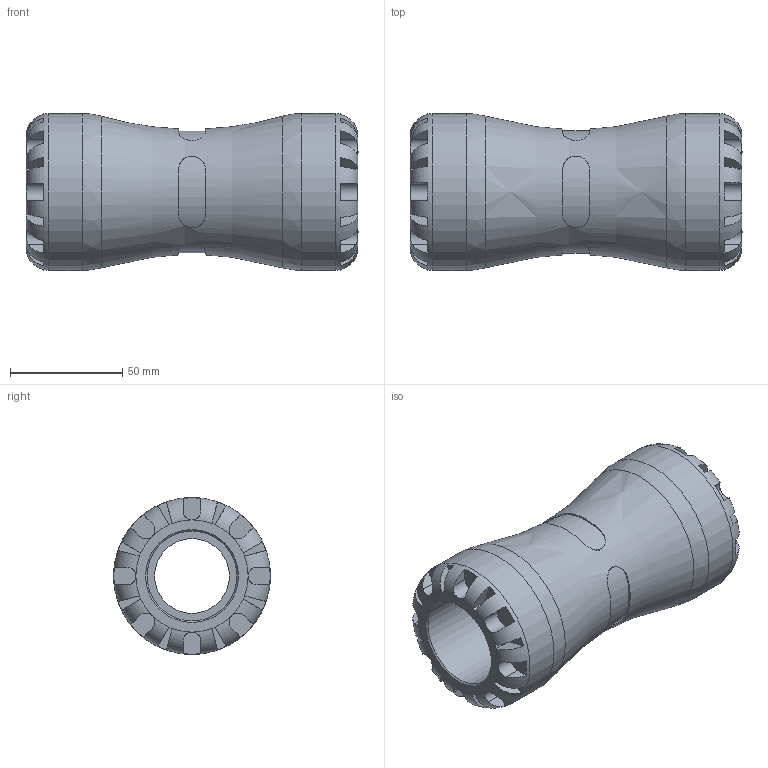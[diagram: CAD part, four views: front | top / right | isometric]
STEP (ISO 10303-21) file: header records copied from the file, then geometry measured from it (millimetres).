
FILE_DESCRIPTION(/* description */ ('PLASSON G-PLASS COUPLING 40X40'),/* implementation_level */ '2;1');
FILE_NAME(/* name */ 'C:\Dropbox\KIMPROJECTS-Inventor 2019\99-16-3568-Processing\S1\150100\stp\150100040.stp',/* time_stamp */ '2023-10-17T19:13:17+03:00',/* author */ ('KIM'),/* organization */ (''),/* preprocessor_version */ 'ST-DEVELOPER v17.2',/* originating_system */ 'Autodesk Inventor 2019',/* authorisation */ '');
FILE_SCHEMA (('AUTOMOTIVE_DESIGN { 1 0 10303 214 3 1 1 }'));
Length unit declared in the file: millimetre
Products named in the file (1): 150100040
Bounding box: 148 x 70 x 70 mm (x, y, z)
Volume: 280879.1 mm3; surface area: 56568.5 mm2
Topology: 1 solids, 1 shells, 164 faces, 431 edges, 274 vertices
Faces by surface type: plane 108, cylinder 49, torus 3, cone 2, bspline 2
Full cylindrical faces by diameter (mm): 33.333 x1, 40 x2, 70 x2
Entity records: 6532 total; most frequent: CARTESIAN_POINT 2494, ORIENTED_EDGE 862, DIRECTION 813, EDGE_CURVE 431, AXIS2_PLACEMENT_3D 331, VERTEX_POINT 274, EDGE_LOOP 171, CIRCLE 168
